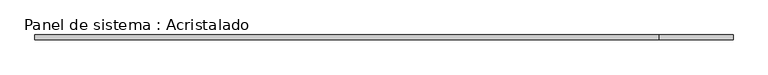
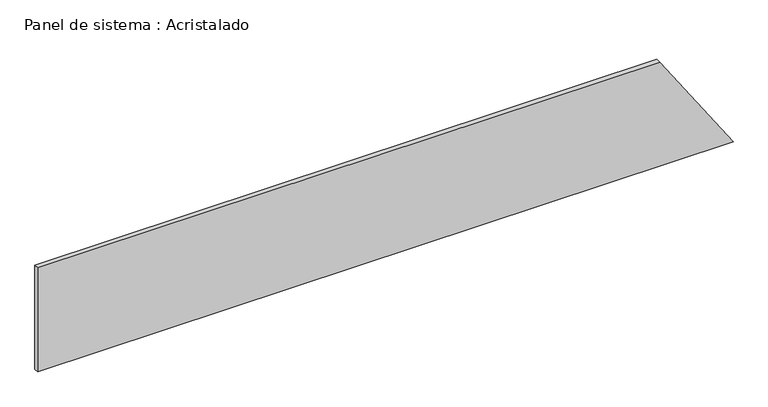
"""IFC4 building model written with IfcOpenShell, lengths in millimetres: plate geometry, Panel de sistema : Acristalado."""

from ifc_helpers import new_model, si_unit, frame, origin, place, context, project, spatial, polyline, outline, extrude, source, transform, mapped, element, save


def panel_de_sistema_acristalado_019df9a7(model_context):
    return source(origin(), model_context, "Body", "SweptSolid", [
        extrude(outline(polyline([(0.0, -1443.8059132), (0.0, 1443.8059132), (456.0, 1138.4487703), (456.0, -1443.8059132), (0.0, -1443.8059132)])), frame((0.0, -10.0, 0.0), z_axis=(0.0, 1.0, 0.0), x_axis=(0.0, 0.0, 1.0)), (0.0, 0.0, 1.0), 20.0),
    ])


if __name__ == "__main__":
    model = new_model("IFC4")
    model_context = context("Model", 3, world=origin())
    ifc_project = project(units=[si_unit("LENGTHUNIT", "METRE", prefix="MILLI")], contexts=[model_context])
    site = spatial("IfcSite", under=ifc_project)
    building = spatial("IfcBuilding", under=site)
    placement = place(None, origin())
    panel_de_sistema_acristalado_shape = panel_de_sistema_acristalado_019df9a7(model_context)
    element("IfcPlate", 1, ObjectType="Panel de sistema : Acristalado", at=placement, inside=building, context=model_context, shape_type="MappedRepresentation", body=[
        mapped(panel_de_sistema_acristalado_shape, transform((0.0, 0.0, 0.0), x_axis=(1.0, 0.0, 0.0), y_axis=(0.0, 1.0, 0.0), z_axis=(0.0, 0.0, 1.0))),
    ])
    save(model, "model.ifc")
